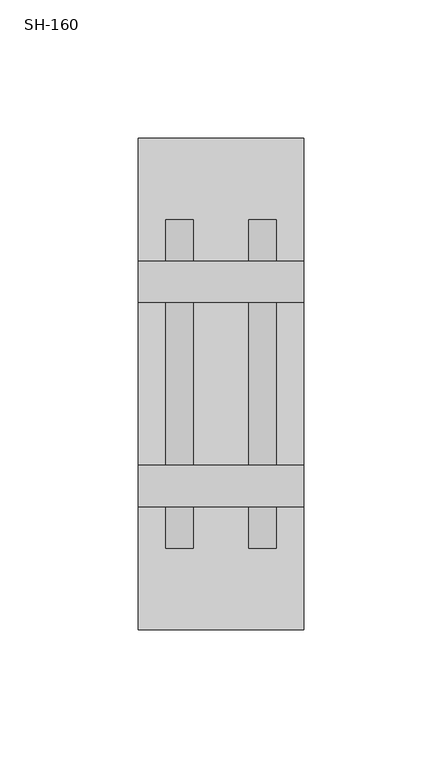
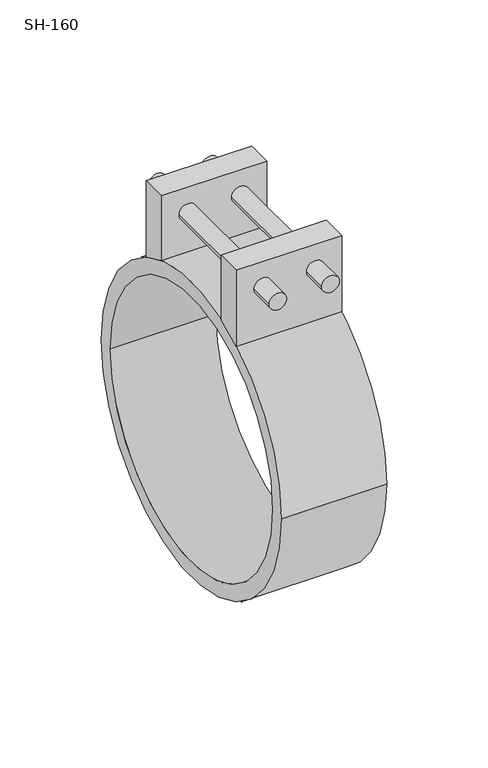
"""IFC4 building model written with IfcOpenShell, lengths in millimetres: duct fitting geometry, СВ_Хомут_Круглый_DN100-315_SH : SH-160."""

import ifcopenshell
import ifcopenshell.guid

model = None  # the IFC model being written
_history = None  # IfcOwnerHistory: only IFC2X3 demands one
_inside = {}  # id of a spatial element -> (the spatial element, [elements in it])
_under = {}  # id of a project, library or spatial element -> (it, [spatial elements below it])
_declared = {}  # id of a project -> (the project, [libraries it declares])
_typed = {}  # id of a type object -> (the type object, [elements of that type])
_made_of = {}  # id of a material, layer set ... -> (it, [elements and type objects made of it])


def new_model(schema):
    """Start an empty IFC model of exactly this schema.

    Asked for "IFC4X3", IfcOpenShell would pick the latest addendum, in which some entities
    have other attributes; the version numbers below select the first issue.
    IFC2X3 requires an IfcOwnerHistory on every rooted entity: one is made here for all.
    """
    global model, _history
    if schema == "IFC4X3":
        model = ifcopenshell.file(schema_version=(4, 3, 0, 0))
    else:
        model = ifcopenshell.file(schema=schema)
    _inside.clear()
    _under.clear()
    _declared.clear()
    _typed.clear()
    _made_of.clear()
    _history = None
    if model.schema == "IFC2X3":
        org = make("IfcOrganization", Name="unknown")
        user = make(
            "IfcPersonAndOrganization",
            ThePerson=make("IfcPerson", FamilyName="unknown"),
            TheOrganization=org,
        )
        app = make(
            "IfcApplication",
            ApplicationDeveloper=org,
            Version="unknown",
            ApplicationFullName="unknown",
            ApplicationIdentifier="unknown",
        )
        _history = make(
            "IfcOwnerHistory",
            OwningUser=user,
            OwningApplication=app,
            ChangeAction="ADDED",
            CreationDate=0,
        )
    return model


def make(cls, **values):
    """One entity of the class cls with the attributes given. An attribute that is None is left unset."""
    return model.create_entity(
        cls, **{name: value for name, value in values.items() if value is not None}
    )


def rooted(cls, **values):
    """An entity with a GlobalId (a new one), such as an element, a storey or a relation."""
    return make(cls, GlobalId=ifcopenshell.guid.new(), OwnerHistory=_history, **values)


def si_unit(unit_type, name, prefix=None):
    """IfcSIUnit, for example si_unit("LENGTHUNIT", "METRE", prefix="MILLI")."""
    return make("IfcSIUnit", UnitType=unit_type, Prefix=prefix, Name=name)


def assignment(units):
    """IfcUnitAssignment: the units of a project."""
    return None if units is None else make("IfcUnitAssignment", Units=units)


def point(xyz):
    """IfcCartesianPoint."""
    return None if xyz is None else make("IfcCartesianPoint", Coordinates=xyz)


def direction(xyz):
    """IfcDirection."""
    return None if xyz is None else make("IfcDirection", DirectionRatios=xyz)


def frame(location, z_axis=None, x_axis=None):
    """IfcAxis2Placement3D, a coordinate frame: its origin and axes. An axis left out is left unset."""
    return make(
        "IfcAxis2Placement3D",
        Location=point(location),
        Axis=direction(z_axis),
        RefDirection=direction(x_axis),
    )


def frame_2d(location, x_axis=None):
    """IfcAxis2Placement2D, a coordinate frame in the plane: its origin and x axis."""
    return make(
        "IfcAxis2Placement2D", Location=point(location), RefDirection=direction(x_axis)
    )


def origin():
    """The frame at (0, 0, 0) with its axes left unset."""
    return frame((0.0, 0.0, 0.0))


def origin_2d():
    """The frame at (0, 0) in the plane with its x axis left unset."""
    return frame_2d((0.0, 0.0))


def place(relative_to, where):
    """IfcLocalPlacement: puts the frame where relative to a parent placement (None: the world)."""
    return make(
        "IfcLocalPlacement", PlacementRelTo=relative_to, RelativePlacement=where
    )


def context(
    kind, dimensions, precision=None, world=None, true_north=None, identifier=None
):
    """IfcGeometricRepresentationContext, for example the 3D "Model" context."""
    return make(
        "IfcGeometricRepresentationContext",
        ContextIdentifier=identifier,
        ContextType=kind,
        CoordinateSpaceDimension=dimensions,
        Precision=precision,
        WorldCoordinateSystem=world,
        TrueNorth=true_north,
    )


def project(units=None, contexts=None):
    """IfcProject with its units and contexts."""
    return rooted(
        "IfcProject",
        Name="project",
        RepresentationContexts=contexts,
        UnitsInContext=assignment(units),
    )


def spatial(cls, under=None, at=None, **own):
    """A site, building, storey or space (cls), placed at a placement, below another one or the project."""
    s = rooted(cls, ObjectPlacement=at, **own)
    if under is not None:
        _under.setdefault(under.id(), (under, []))[1].append(s)
    return s


def polyline(points):
    """IfcPolyline through the points."""
    return make("IfcPolyline", Points=[point(p) for p in points])


def circle_curve(where, radius):
    """IfcCircle in the frame where."""
    return make("IfcCircle", Position=where, Radius=radius)


def trimmed(basis, trim1, trim2, sense, master):
    """IfcTrimmedCurve: the piece of a basis curve between two trims."""
    return make(
        "IfcTrimmedCurve",
        BasisCurve=basis,
        Trim1=trim1,
        Trim2=trim2,
        SenseAgreement=sense,
        MasterRepresentation=master,
    )


def segment(curve, same_sense, transition):
    """IfcCompositeCurveSegment."""
    return make(
        "IfcCompositeCurveSegment",
        Transition=transition,
        SameSense=same_sense,
        ParentCurve=curve,
    )


def composite_curve(segments, self_intersect=None):
    """IfcCompositeCurve: segments joined end to end."""
    return make("IfcCompositeCurve", Segments=segments, SelfIntersect=self_intersect)


def outline(outer, holes=None, kind="AREA"):
    """IfcArbitraryClosedProfileDef: a profile drawn as a closed curve; with holes, ...WithVoids."""
    if holes is None:
        return make("IfcArbitraryClosedProfileDef", ProfileType=kind, OuterCurve=outer)
    return make(
        "IfcArbitraryProfileDefWithVoids",
        ProfileType=kind,
        OuterCurve=outer,
        InnerCurves=holes,
    )


def extrude(swept, where, along, depth):
    """IfcExtrudedAreaSolid: the profile swept, set in the frame where, extruded along a direction by depth."""
    return make(
        "IfcExtrudedAreaSolid",
        SweptArea=swept,
        Position=where,
        ExtrudedDirection=direction(along),
        Depth=depth,
    )


def shape(context_of_items, identifier, shape_type, items):
    """IfcShapeRepresentation: the items that make up one representation, for example the "Body"."""
    return make(
        "IfcShapeRepresentation",
        ContextOfItems=context_of_items,
        RepresentationIdentifier=identifier,
        RepresentationType=shape_type,
        Items=items,
    )


def source(mapping_origin, context_of_items, identifier, shape_type, items):
    """IfcRepresentationMap: a shape defined once, which mapped items show again and again."""
    return make(
        "IfcRepresentationMap",
        MappingOrigin=mapping_origin,
        MappedRepresentation=shape(context_of_items, identifier, shape_type, items),
    )


def transform(
    local_origin,
    x_axis=None,
    y_axis=None,
    z_axis=None,
    scale=None,
    scale2=None,
    scale3=None,
    uniform=True,
):
    """IfcCartesianTransformationOperator3D, or its non-uniform kind. x_axis, y_axis, z_axis: its Axis1, 2, 3."""
    if uniform:
        return make(
            "IfcCartesianTransformationOperator3D",
            Axis1=direction(x_axis),
            Axis2=direction(y_axis),
            LocalOrigin=point(local_origin),
            Scale=scale,
            Axis3=direction(z_axis),
        )
    return make(
        "IfcCartesianTransformationOperator3DnonUniform",
        Axis1=direction(x_axis),
        Axis2=direction(y_axis),
        LocalOrigin=point(local_origin),
        Scale=scale,
        Axis3=direction(z_axis),
        Scale2=scale2,
        Scale3=scale3,
    )


def mapped(mapping_source, mapping_target):
    """IfcMappedItem: shows the shape of a source again, moved by a transform."""
    return make(
        "IfcMappedItem", MappingSource=mapping_source, MappingTarget=mapping_target
    )


def made_of(thing, what):
    """Note that an element or type object is made of a material, layer set ...; save() writes the relation."""
    if what is not None:
        _made_of.setdefault(what.id(), (what, []))[1].append(thing)
    return thing


def element(
    cls,
    number,
    at=None,
    inside=None,
    cuts=None,
    type_object=None,
    material=None,
    context=None,
    identifier="Body",
    shape_type=None,
    held_by="IfcProductDefinitionShape",
    body=None,
    shapes=None,
    **own,
):
    """One element of the class cls, such as IfcWall. Its Tag is "e" and its number.

    at: its placement. inside: the storey or other place that contains it. cuts: it is an
    opening in that element (IfcRelVoidsElement). A single representation is given by context,
    identifier, shape_type and body (its items); several are given by shapes. held_by: the class
    of the entity that holds the representations. save() writes the other relations.
    """
    e = rooted(cls, Tag="e%d" % number, ObjectPlacement=at, **own)
    if body is not None:
        shapes = [shape(context, identifier, shape_type, body)]
    if shapes is not None:
        e.Representation = make(held_by, Representations=shapes)
    if inside is not None:
        _inside.setdefault(inside.id(), (inside, []))[1].append(e)
    if cuts is not None:
        rooted(
            "IfcRelVoidsElement", RelatingBuildingElement=cuts, RelatedOpeningElement=e
        )
    if type_object is not None:
        _typed.setdefault(type_object.id(), (type_object, []))[1].append(e)
    return made_of(e, material)


def aggregate(whole, parts):
    """IfcRelAggregates: a whole, such as a stair, and the parts it consists of."""
    return rooted("IfcRelAggregates", RelatingObject=whole, RelatedObjects=parts)


def save(model, path):
    """Write the relations noted so far, then the file.

    IfcRelAggregates (storeys below a building ...), IfcRelContainedInSpatialStructure (elements
    in a storey), IfcRelDefinesByType, IfcRelAssociatesMaterial and IfcRelDeclares: one each for
    every whole, place, type object, material and project.
    """
    for whole, parts in _under.values():
        aggregate(whole, parts)
    for where, things in _inside.values():
        rooted(
            "IfcRelContainedInSpatialStructure",
            RelatedElements=things,
            RelatingStructure=where,
        )
    for kind, things in _typed.values():
        rooted("IfcRelDefinesByType", RelatedObjects=things, RelatingType=kind)
    for what, things in _made_of.values():
        rooted("IfcRelAssociatesMaterial", RelatedObjects=things, RelatingMaterial=what)
    for by, libraries in _declared.values():
        rooted("IfcRelDeclares", RelatingContext=by, RelatedDefinitions=libraries)
    model.write(path)


def plane_surface(at):
    """IfcPlane: the flat surface through the origin of the frame at, square to its z axis."""
    return make("IfcPlane", Position=at)


def cylinder_surface(at, radius):
    """IfcCylindricalSurface: all points at the distance radius from the z axis of the frame at."""
    return make("IfcCylindricalSurface", Position=at, Radius=radius)


def revolved_surface(curve, axis_point, axis_direction):
    """IfcSurfaceOfRevolution: the curve turned about the line through axis_point along axis_direction."""
    return make(
        "IfcSurfaceOfRevolution",
        SweptCurve=make("IfcArbitraryOpenProfileDef", ProfileType="CURVE", Curve=curve),
        AxisPosition=make("IfcAxis1Placement", Location=point(axis_point), Axis=direction(axis_direction)),
    )


def advanced_brep(points, edges, surfaces, faces):
    """IfcAdvancedBrep: a solid bounded by faces that lie on surfaces and meet in shared edges.

    An edge is (start, end): straight between two places in points (the first is 0);
    or (start, end, curve); or (start, end, curve, False) where it runs against its curve.
    A face is (place in surfaces, loops), or (place, loops, False) where it looks against
    its surface's normal. A loop lists edges by number (the first is 1), with a minus sign
    where the edge is run from its end to its start. The first loop is the outer one.
    """
    corners = [point(p) for p in points]
    vertices = [make("IfcVertexPoint", VertexGeometry=c) for c in corners]
    made = []
    for start, end, *more in edges:
        made.append(
            make(
                "IfcEdgeCurve",
                EdgeStart=vertices[start],
                EdgeEnd=vertices[end],
                EdgeGeometry=more[0] if more else make("IfcPolyline", Points=[corners[start], corners[end]]),
                SameSense=more[1] if len(more) > 1 else True,
            )
        )
    hull = []
    for where, loops, *sense in faces:
        bounds = []
        for j, loop in enumerate(loops):
            ring = [make("IfcOrientedEdge", EdgeElement=made[abs(k) - 1], Orientation=k > 0) for k in loop]
            bounds.append(
                make(
                    "IfcFaceOuterBound" if j == 0 else "IfcFaceBound",
                    Bound=make("IfcEdgeLoop", EdgeList=ring),
                    Orientation=True,
                )
            )
        hull.append(make("IfcAdvancedFace", Bounds=bounds, FaceSurface=surfaces[where], SameSense=sense[0] if sense else True))
    return make("IfcAdvancedBrep", Outer=make("IfcClosedShell", CfsFaces=hull))


def sh_160_df68ee8f(model_context):
    return source(origin(), model_context, "Body", "SolidModel", [
        advanced_brep(
        [(30.0, 44.5, 123.0), (30.0, 29.5, 123.0), (30.0, 29.5, 83.9687442), (30.0, 44.5, 77.0762609), (30.0, -29.5, 123.0), (30.0, -44.5, 123.0), (30.0, -44.5, 77.0762609), (30.0, -29.5, 83.9687442), (-30.0, 29.5, 123.0), (-30.0, 44.5, 123.0), (-30.0, 44.5, 77.0762609), (-30.0, 29.5, 83.9687442), (-30.0, -44.5, 123.0), (-30.0, -29.5, 123.0), (-30.0, -29.5, 83.9687442), (-30.0, -44.5, 77.0762609), (-20.0, 44.5, 108.0), (-10.0, 44.5, 108.0), (10.0, 44.5, 108.0), (20.0, 44.5, 108.0), (-10.0, 29.5, 108.0), (-20.0, 29.5, 108.0), (20.0, 29.5, 108.0), (10.0, 29.5, 108.0), (-20.0, -29.5, 108.0), (-10.0, -29.5, 108.0), (10.0, -29.5, 108.0), (20.0, -29.5, 108.0), (-10.0, -44.5, 108.0), (-20.0, -44.5, 108.0), (20.0, -44.5, 108.0), (10.0, -44.5, 108.0), (-20.0, -59.5, 108.0), (-10.0, -59.5, 108.0), (10.0, -59.5, 108.0), (20.0, -59.5, 108.0), (-20.0, 59.5, 108.0), (-10.0, 59.5, 108.0), (10.0, 59.5, 108.0), (20.0, 59.5, 108.0)],
        [
            (0, 1),
            (1, 2),
            (2, 3, circle_curve(frame((30.0, 0.0, 0.0), z_axis=(-1.0, 0.0, 0.0), x_axis=(0.0, 1.0, 0.0)), 89.0)),
            (3, 0),
            (4, 5),
            (5, 6),
            (6, 7, circle_curve(frame((30.0, 0.0, 0.0), z_axis=(-1.0, 0.0, 0.0), x_axis=(0.0, 1.0, 0.0)), 89.0)),
            (7, 4),
            (8, 9),
            (9, 10),
            (10, 11, circle_curve(frame((-30.0, 0.0, 0.0), z_axis=(1.0, 0.0, 0.0), x_axis=(0.0, 1.0, 0.0)), 89.0)),
            (11, 8),
            (12, 13),
            (13, 14),
            (14, 15, circle_curve(frame((-30.0, 0.0, 0.0), z_axis=(1.0, 0.0, 0.0), x_axis=(0.0, 1.0, 0.0)), 89.0)),
            (15, 12),
            (9, 0),
            (3, 10),
            (16, 17, circle_curve(frame((-15.0, 44.5, 108.0), z_axis=(0.0, -1.0, 0.0), x_axis=(1.0, 0.0, 0.0)), 5.0)),
            (17, 16, circle_curve(frame((-15.0, 44.5, 108.0), z_axis=(0.0, -1.0, 0.0), x_axis=(1.0, 0.0, 0.0)), 5.0)),
            (18, 19, circle_curve(frame((15.0, 44.5, 108.0), z_axis=(0.0, -1.0, 0.0), x_axis=(1.0, 0.0, 0.0)), 5.0)),
            (19, 18, circle_curve(frame((15.0, 44.5, 108.0), z_axis=(0.0, -1.0, 0.0), x_axis=(1.0, 0.0, 0.0)), 5.0)),
            (8, 1),
            (11, 2),
            (20, 21, circle_curve(frame((-15.0, 29.5, 108.0), z_axis=(0.0, 1.0, 0.0), x_axis=(1.0, 0.0, 0.0)), 5.0)),
            (21, 20, circle_curve(frame((-15.0, 29.5, 108.0), z_axis=(0.0, 1.0, 0.0), x_axis=(1.0, 0.0, 0.0)), 5.0)),
            (22, 23, circle_curve(frame((15.0, 29.5, 108.0), z_axis=(0.0, 1.0, 0.0), x_axis=(1.0, 0.0, 0.0)), 5.0)),
            (23, 22, circle_curve(frame((15.0, 29.5, 108.0), z_axis=(0.0, 1.0, 0.0), x_axis=(1.0, 0.0, 0.0)), 5.0)),
            (13, 4),
            (7, 14),
            (24, 25, circle_curve(frame((-15.0, -29.5, 108.0), z_axis=(0.0, -1.0, 0.0), x_axis=(1.0, 0.0, 0.0)), 5.0)),
            (25, 24, circle_curve(frame((-15.0, -29.5, 108.0), z_axis=(0.0, -1.0, 0.0), x_axis=(1.0, 0.0, 0.0)), 5.0)),
            (26, 27, circle_curve(frame((15.0, -29.5, 108.0), z_axis=(0.0, -1.0, 0.0), x_axis=(1.0, 0.0, 0.0)), 5.0)),
            (27, 26, circle_curve(frame((15.0, -29.5, 108.0), z_axis=(0.0, -1.0, 0.0), x_axis=(1.0, 0.0, 0.0)), 5.0)),
            (12, 5),
            (15, 6),
            (28, 29, circle_curve(frame((-15.0, -44.5, 108.0), z_axis=(0.0, 1.0, 0.0), x_axis=(1.0, 0.0, 0.0)), 5.0)),
            (29, 28, circle_curve(frame((-15.0, -44.5, 108.0), z_axis=(0.0, 1.0, 0.0), x_axis=(1.0, 0.0, 0.0)), 5.0)),
            (30, 31, circle_curve(frame((15.0, -44.5, 108.0), z_axis=(0.0, 1.0, 0.0), x_axis=(1.0, 0.0, 0.0)), 5.0)),
            (31, 30, circle_curve(frame((15.0, -44.5, 108.0), z_axis=(0.0, 1.0, 0.0), x_axis=(1.0, 0.0, 0.0)), 5.0)),
            (32, 33, circle_curve(frame((-15.0, -59.5, 108.0), z_axis=(0.0, -1.0, 0.0), x_axis=(1.0, 0.0, 0.0)), 5.0)),
            (33, 32, circle_curve(frame((-15.0, -59.5, 108.0), z_axis=(0.0, -1.0, 0.0), x_axis=(1.0, 0.0, 0.0)), 5.0)),
            (34, 35, circle_curve(frame((15.0, -59.5, 108.0), z_axis=(0.0, -1.0, 0.0), x_axis=(1.0, 0.0, 0.0)), 5.0)),
            (35, 34, circle_curve(frame((15.0, -59.5, 108.0), z_axis=(0.0, -1.0, 0.0), x_axis=(1.0, 0.0, 0.0)), 5.0)),
            (36, 37, circle_curve(frame((-15.0, 59.5, 108.0), z_axis=(0.0, 1.0, 0.0), x_axis=(1.0, 0.0, 0.0)), 5.0)),
            (37, 36, circle_curve(frame((-15.0, 59.5, 108.0), z_axis=(0.0, 1.0, 0.0), x_axis=(1.0, 0.0, 0.0)), 5.0)),
            (38, 39, circle_curve(frame((15.0, 59.5, 108.0), z_axis=(0.0, 1.0, 0.0), x_axis=(1.0, 0.0, 0.0)), 5.0)),
            (39, 38, circle_curve(frame((15.0, 59.5, 108.0), z_axis=(0.0, 1.0, 0.0), x_axis=(1.0, 0.0, 0.0)), 5.0)),
            (32, 29),
            (28, 33),
            (37, 17),
            (16, 36),
            (24, 21),
            (20, 25),
            (34, 31),
            (30, 35),
            (39, 19),
            (18, 38),
            (26, 23),
            (22, 27),
        ],
        [
            plane_surface(frame((30.0, 44.5, 123.0), z_axis=(1.0, 0.0, 0.0), x_axis=(0.0, 0.0, 1.0))),
            plane_surface(frame((-30.0, 44.5, 123.0), z_axis=(-1.0, 0.0, 0.0), x_axis=(0.0, 0.0, -1.0))),
            plane_surface(frame((30.0, 44.5, 0.0), z_axis=(0.0, 1.0, 0.0), x_axis=(-1.0, 0.0, 0.0))),
            plane_surface(frame((30.0, 44.5, 123.0), z_axis=(0.0, 0.0, 1.0), x_axis=(-1.0, 0.0, 0.0))),
            plane_surface(frame((30.0, 29.5, 123.0), z_axis=(0.0, -1.0, 0.0), x_axis=(-1.0, 0.0, 0.0))),
            plane_surface(frame((30.0, -29.5, 0.0), z_axis=(0.0, 1.0, 0.0), x_axis=(-1.0, 0.0, 0.0))),
            plane_surface(frame((30.0, -29.5, 123.0), z_axis=(0.0, 0.0, 1.0), x_axis=(-1.0, 0.0, 0.0))),
            plane_surface(frame((30.0, -44.5, 123.0), z_axis=(0.0, -1.0, 0.0), x_axis=(-1.0, 0.0, 0.0))),
            revolved_surface(polyline([(30.0, 89.0, 0.0), (-30.0, 89.0, 0.0)]), (-30.0, 0.0, 0.0), (1.0, 0.0, 0.0)),
            plane_surface(frame((-10.0, -59.5, 108.0), z_axis=(0.0, -1.0, 0.0), x_axis=(0.0, 0.0, 1.0))),
            plane_surface(frame((-10.0, 59.5, 108.0), z_axis=(0.0, 1.0, 0.0), x_axis=(0.0, 0.0, -1.0))),
            cylinder_surface(frame((-15.0, 59.5, 108.0), z_axis=(0.0, -1.0, 0.0), x_axis=(1.0, 0.0, 0.0)), 5.0),
            cylinder_surface(frame((15.0, 0.0, 108.0), z_axis=(0.0, -1.0, 0.0), x_axis=(1.0, 0.0, 0.0)), 5.0),
        ],
        [
            (0, [[1, 2, 3, 4]]),
            (0, [[5, 6, 7, 8]]),
            (1, [[9, 10, 11, 12]]),
            (1, [[13, 14, 15, 16]]),
            (2, [[17, -4, 18, -10], [19, 20], [21, 22]]),
            (3, [[-1, -17, -9, 23]]),
            (4, [[-23, -12, 24, -2], [25, 26], [27, 28]]),
            (5, [[29, -8, 30, -14], [31, 32], [33, 34]]),
            (6, [[-5, -29, -13, 35]]),
            (7, [[-35, -16, 36, -6], [37, 38], [39, 40]]),
            (8, [[-3, -24, -11, -18]]),
            (8, [[-7, -36, -15, -30]]),
            (9, [[41, 42]]),
            (9, [[43, 44]]),
            (10, [[45, 46]]),
            (10, [[47, 48]]),
            (11, [[-41, 49, -37, 50]]),
            (11, [[-46, 51, -19, 52]]),
            (11, [[53, -25, 54, -31]]),
            (11, [[-42, -50, -38, -49]]),
            (11, [[-45, -52, -20, -51]]),
            (11, [[-53, -32, -54, -26]]),
            (12, [[-43, 55, -39, 56]]),
            (12, [[-48, 57, -21, 58]]),
            (12, [[59, -27, 60, -33]]),
            (12, [[-44, -56, -40, -55]]),
            (12, [[-47, -58, -22, -57]]),
            (12, [[-59, -34, -60, -28]]),
        ],
    ),
        extrude(outline(composite_curve([segment(trimmed(circle_curve(origin_2d(), 89.0), [point((-89.0, 0.0))], [point((89.0, 0.0))], False, "CARTESIAN"), True, "CONTINUOUS"), segment(trimmed(circle_curve(origin_2d(), 89.0), [point((89.0, 0.0))], [point((-89.0, 0.0))], False, "CARTESIAN"), True, "CONTINUOUS")], self_intersect=False), holes=[composite_curve([segment(trimmed(circle_curve(origin_2d(), 80.0), [point((-80.0, 0.0))], [point((80.0, 0.0))], True, "CARTESIAN"), True, "CONTINUOUS"), segment(trimmed(circle_curve(origin_2d(), 80.0), [point((80.0, 0.0))], [point((-80.0, 0.0))], True, "CARTESIAN"), True, "CONTINUOUS")], self_intersect=False)]), frame((-30.0, 0.0, 0.0), z_axis=(1.0, 0.0, 0.0), x_axis=(0.0, 1.0, 0.0)), (0.0, 0.0, 1.0), 60.0),
    ])


if __name__ == "__main__":
    model = new_model("IFC4")
    model_context = context("Model", 3, world=origin())
    ifc_project = project(units=[si_unit("LENGTHUNIT", "METRE", prefix="MILLI")], contexts=[model_context])
    site = spatial("IfcSite", under=ifc_project)
    building = spatial("IfcBuilding", under=site)
    placement = place(None, origin())
    sh_160_shape = sh_160_df68ee8f(model_context)
    element("IfcDuctFitting", 1, ObjectType="СВ_Хомут_Круглый_DN100-315_SH : SH-160", at=placement, inside=building, context=model_context, shape_type="MappedRepresentation", body=[
        mapped(sh_160_shape, transform((0.0, 0.0, 0.0), x_axis=(1.0, 0.0, 0.0), y_axis=(0.0, 1.0, 0.0), z_axis=(0.0, 0.0, 1.0))),
    ])
    save(model, "model.ifc")
